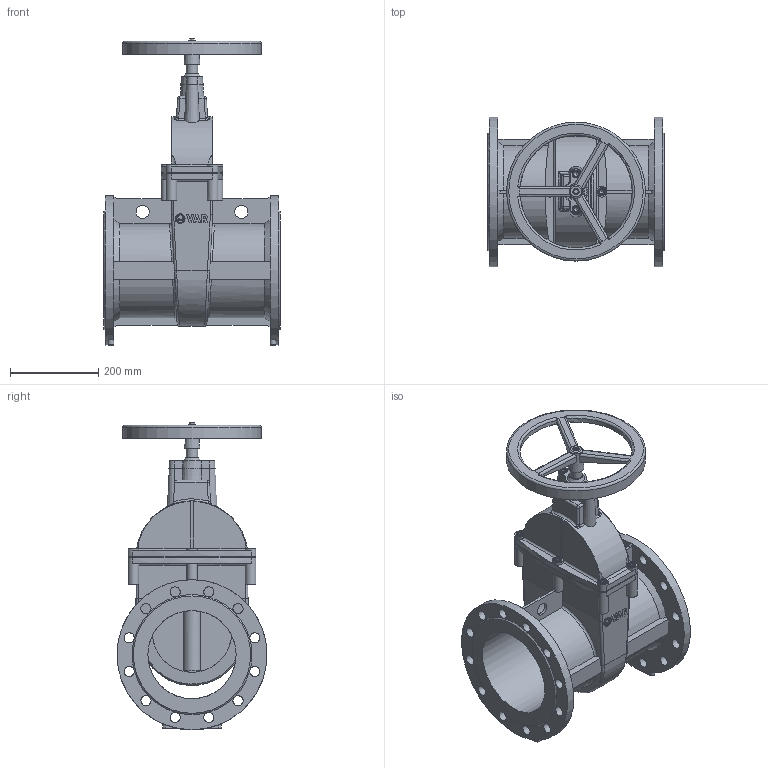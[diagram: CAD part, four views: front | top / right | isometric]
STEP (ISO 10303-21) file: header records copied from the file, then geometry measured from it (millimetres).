
FILE_DESCRIPTION(('STEP AP242'), '1');
FILE_NAME('青溻桄赅', '', ('UNSPECIFIED'), ('UNSPECIFIED'), 'C3D Converter', 'C3D Toolkit', '');
FILE_SCHEMA(('AP242_MANAGED_MODEL_BASED_3D_ENGINEERING_MIM_LF { 1 0 10303 442 1 1 4 }'));
Length unit declared in the file: millimetre
Assembly tree (17 placements, depth 2):
  (unnamed)
    (unnamed)
    (unnamed)
    (unnamed)
    (unnamed)
    (unnamed)  x2
    (unnamed)
    (unnamed)
    (unnamed)  x6
    (unnamed)  x2
    (unnamed)
Bounding box: 400 x 340 x 696.6 mm (x, y, z)
Volume: 8866055.6 mm3; surface area: 1875102.1 mm2
Topology: 20 solids, 20 shells, 974 faces, 2482 edges, 1582 vertices
Faces by surface type: plane 465, cylinder 202, extrusion 151, cone 69, bspline 66, torus 21
Full cylindrical faces by diameter (mm): 6 x3, 10 x8, 12 x30, 18 x16, 22.032 x1, 23 x24, 26 x7, 30 x2, 39.333 x4, 180 x2, 200 x4, 232 x4, 240 x1, 255 x1, 265 x1, 305 x1, 315 x1, 340 x2
Entity records: 43617 total; most frequent: CARTESIAN_POINT 21510, ORIENTED_EDGE 4066, DIRECTION 3231, EDGE_CURVE 2033, VERTEX_POINT 1387, EDGE_LOOP 1116, AXIS2_PLACEMENT_3D 1077, VECTOR 1077
